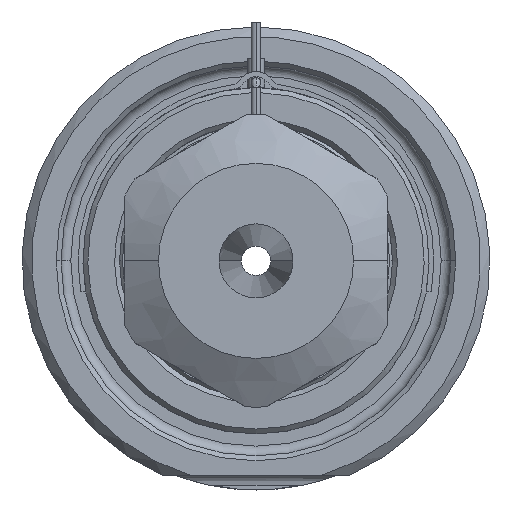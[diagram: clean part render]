
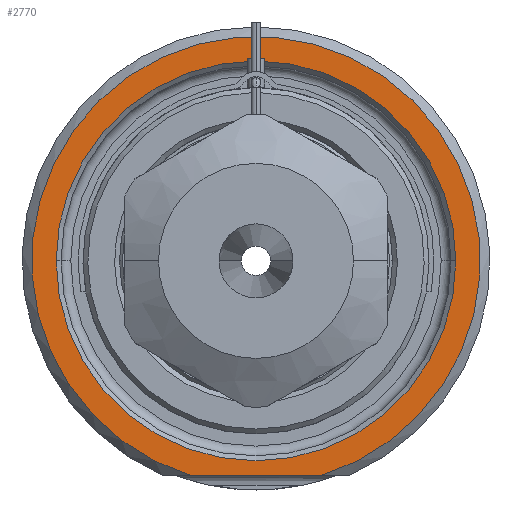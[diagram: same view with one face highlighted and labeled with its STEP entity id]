
A CAD part, front view. The second image highlights one B-rep face of the part: STEP entity #2770.
In plain terms, the highlighted planar face has unit normal (0, -1, 0).
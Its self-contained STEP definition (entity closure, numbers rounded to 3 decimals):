
#1=DIRECTION('',(1.,0.,0.));
#2=VECTOR('',#1,13.416);
#3=CARTESIAN_POINT('',(-6.708,0.,-22.));
#4=LINE('',#3,#2);
#5=CARTESIAN_POINT('',(0.,0.,0.));
#6=DIRECTION('',(0.,1.,0.));
#7=DIRECTION('',(-1.,0.,0.));
#8=AXIS2_PLACEMENT_3D('',#5,#6,#7);
#10=CARTESIAN_POINT('',(0.,0.,0.));
#11=DIRECTION('',(0.,1.,0.));
#12=DIRECTION('',(1.,0.,0.));
#13=AXIS2_PLACEMENT_3D('',#10,#11,#12);
#121=CARTESIAN_POINT('',(0.,0.,0.));
#122=DIRECTION('',(0.,-1.,0.));
#123=DIRECTION('',(0.292,0.,-0.957));
#124=AXIS2_PLACEMENT_3D('',#121,#122,#123);
#2310=CARTESIAN_POINT('',(-20.5,0.,0.));
#2311=CARTESIAN_POINT('',(20.5,0.,0.));
#2312=VERTEX_POINT('',#2310);
#2313=VERTEX_POINT('',#2311);
#2350=CARTESIAN_POINT('',(-6.708,0.,-22.));
#2351=CARTESIAN_POINT('',(6.708,0.,-22.));
#2352=VERTEX_POINT('',#2350);
#2353=VERTEX_POINT('',#2351);
#2753=CARTESIAN_POINT('',(0.,0.,0.));
#2754=DIRECTION('',(0.,-1.,0.));
#2755=DIRECTION('',(1.,0.,0.));
#2756=AXIS2_PLACEMENT_3D('',#2753,#2754,#2755);
#2757=PLANE('',#2756);
#2759=ORIENTED_EDGE('',*,*,#2758,.F.);
#2761=ORIENTED_EDGE('',*,*,#2760,.F.);
#2762=EDGE_LOOP('',(#2759,#2761));
#2763=FACE_OUTER_BOUND('',#2762,.F.);
#2765=ORIENTED_EDGE('',*,*,#2764,.F.);
#2767=ORIENTED_EDGE('',*,*,#2766,.F.);
#2768=EDGE_LOOP('',(#2765,#2767));
#2769=FACE_BOUND('',#2768,.F.);
#2770=ADVANCED_FACE('',(#2763,#2769),#2757,.T.);
#9=CIRCLE('',#8,20.5);
#14=CIRCLE('',#13,20.5);
#125=CIRCLE('',#124,23.);
#2758=EDGE_CURVE('',#2352,#2353,#4,.T.);
#2760=EDGE_CURVE('',#2353,#2352,#125,.T.);
#2764=EDGE_CURVE('',#2312,#2313,#9,.T.);
#2766=EDGE_CURVE('',#2313,#2312,#14,.T.);
